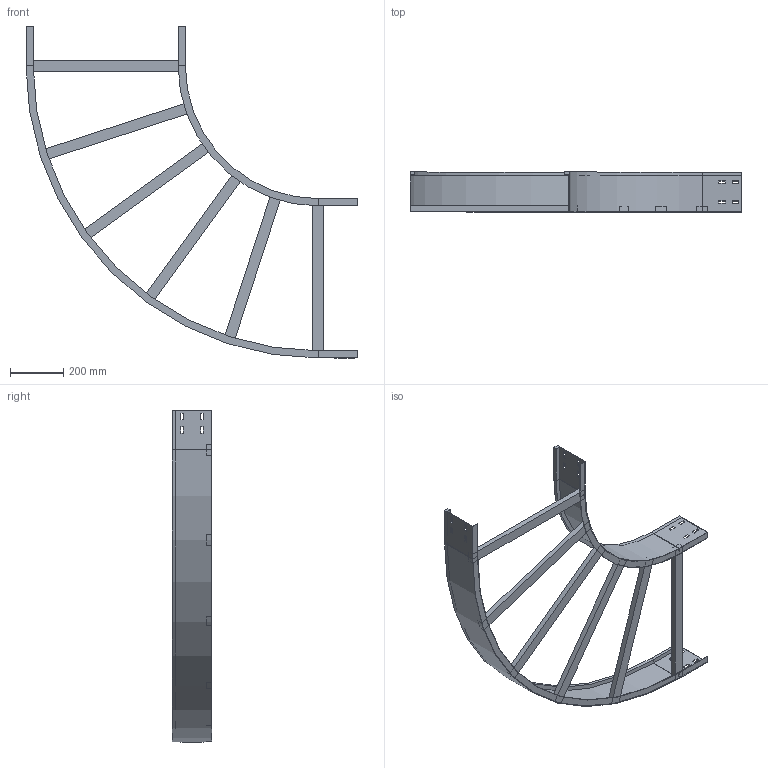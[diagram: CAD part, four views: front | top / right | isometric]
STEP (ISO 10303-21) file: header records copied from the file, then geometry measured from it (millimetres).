
FILE_DESCRIPTION (( 'STEP AP214' ), '1' );
FILE_NAME ('10J5F600.step', '2025-02-21T16:25:22', ( '' ), ( '' ), 'SwSTEP 2.0', 'SolidWorks 2023', '' );
FILE_SCHEMA (( 'AUTOMOTIVE_DESIGN' ));
Length unit declared in the file: millimetre
Products named in the file (4): LONGH.INTERNO 90°_H150_R500; TRAVERSINO_600; 10J5F600; LONGH.ESTERNO 90°_H150_R500+600
Assembly tree (8 placements, depth 2):
  10J5F600
    LONGH.INTERNO 90°_H150_R500
    LONGH.ESTERNO 90°_H150_R500+600
    TRAVERSINO_600  x6
Bounding box: 1250 x 150 x 1250 mm (x, y, z)
Volume: 4576754.6 mm3; surface area: 1641283.8 mm2
Topology: 8 solids, 8 shells, 152 faces, 376 edges, 240 vertices
Faces by surface type: plane 144, cylinder 8
Entity records: 3845 total; most frequent: CARTESIAN_POINT 649, ORIENTED_EDGE 632, DIRECTION 598, EDGE_CURVE 316, VECTOR 300, LINE 300, VERTEX_POINT 200, EDGE_LOOP 154
